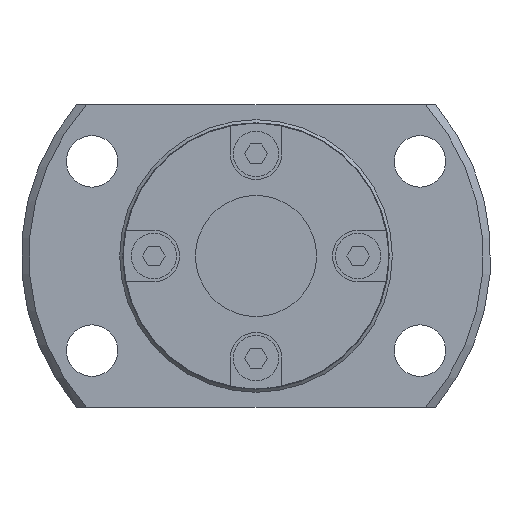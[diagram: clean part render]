
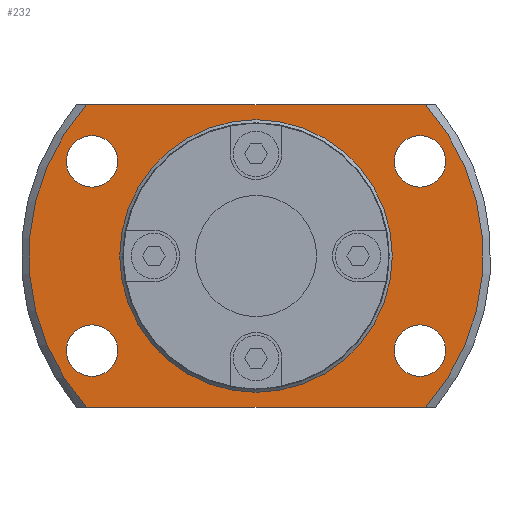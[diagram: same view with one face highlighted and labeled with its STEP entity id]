
A CAD part, left-side view. The second image highlights one B-rep face of the part: STEP entity #232.
In plain terms, the highlighted planar face has unit normal (-1, 0, 0).
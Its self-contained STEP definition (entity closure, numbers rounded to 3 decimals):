
#232 = ADVANCED_FACE( '', ( #493, #494, #495, #496, #497, #498 ), #499, .F. );
#493 = FACE_OUTER_BOUND( '', #793, .T. );
#494 = FACE_BOUND( '', #794, .T. );
#495 = FACE_BOUND( '', #795, .T. );
#496 = FACE_BOUND( '', #796, .T. );
#497 = FACE_BOUND( '', #797, .T. );
#498 = FACE_BOUND( '', #798, .T. );
#499 = PLANE( '', #799 );
#793 = EDGE_LOOP( '', ( #1300, #1301, #1302, #1303 ) );
#794 = EDGE_LOOP( '', ( #1304 ) );
#795 = EDGE_LOOP( '', ( #1305 ) );
#796 = EDGE_LOOP( '', ( #1306 ) );
#797 = EDGE_LOOP( '', ( #1307 ) );
#798 = EDGE_LOOP( '', ( #1308 ) );
#799 = AXIS2_PLACEMENT_3D( '', #1309, #1310, #1311 );
#1300 = ORIENTED_EDGE( '', *, *, #1796, .F. );
#1301 = ORIENTED_EDGE( '', *, *, #1797, .T. );
#1302 = ORIENTED_EDGE( '', *, *, #1798, .F. );
#1303 = ORIENTED_EDGE( '', *, *, #1794, .T. );
#1304 = ORIENTED_EDGE( '', *, *, #1723, .T. );
#1305 = ORIENTED_EDGE( '', *, *, #1799, .T. );
#1306 = ORIENTED_EDGE( '', *, *, #1800, .T. );
#1307 = ORIENTED_EDGE( '', *, *, #1661, .T. );
#1308 = ORIENTED_EDGE( '', *, *, #1760, .T. );
#1309 = CARTESIAN_POINT( '', ( 13., 8.85, 0. ) );
#1310 = DIRECTION( '', ( 1., 0., 0. ) );
#1311 = DIRECTION( '', ( 0., 0., -1. ) );
#1661 = EDGE_CURVE( '', #1953, #1953, #1954, .T. );
#1723 = EDGE_CURVE( '', #2055, #2055, #2056, .T. );
#1760 = EDGE_CURVE( '', #2104, #2104, #2105, .T. );
#1794 = EDGE_CURVE( '', #2150, #2157, #2159, .T. );
#1796 = EDGE_CURVE( '', #2161, #2157, #2162, .T. );
#1797 = EDGE_CURVE( '', #2161, #2163, #2164, .T. );
#1798 = EDGE_CURVE( '', #2150, #2163, #2165, .T. );
#1799 = EDGE_CURVE( '', #2166, #2166, #2167, .T. );
#1800 = EDGE_CURVE( '', #2168, #2168, #2169, .T. );
#1953 = VERTEX_POINT( '', #2366 );
#1954 = CIRCLE( '', #2367, 1.7 );
#2055 = VERTEX_POINT( '', #2504 );
#2056 = CIRCLE( '', #2505, 1.7 );
#2104 = VERTEX_POINT( '', #2572 );
#2105 = CIRCLE( '', #2573, 8.85 );
#2150 = VERTEX_POINT( '', #2627 );
#2157 = VERTEX_POINT( '', #2644 );
#2159 = LINE( '', #2649, #2650 );
#2161 = VERTEX_POINT( '', #2652 );
#2162 = CIRCLE( '', #2653, 15. );
#2163 = VERTEX_POINT( '', #2654 );
#2164 = LINE( '', #2655, #2656 );
#2165 = CIRCLE( '', #2657, 15. );
#2166 = VERTEX_POINT( '', #2658 );
#2167 = CIRCLE( '', #2659, 1.7 );
#2168 = VERTEX_POINT( '', #2660 );
#2169 = CIRCLE( '', #2661, 1.7 );
#2366 = CARTESIAN_POINT( '', ( 13., 10.825, 4.55 ) );
#2367 = AXIS2_PLACEMENT_3D( '', #2834, #2835, #2836 );
#2504 = CARTESIAN_POINT( '', ( 13., -10.825, 4.55 ) );
#2505 = AXIS2_PLACEMENT_3D( '', #2906, #2907, #2908 );
#2572 = CARTESIAN_POINT( '', ( 13., 0., -8.85 ) );
#2573 = AXIS2_PLACEMENT_3D( '', #2946, #2947, #2948 );
#2627 = CARTESIAN_POINT( '', ( 13., -11.18, 10. ) );
#2644 = CARTESIAN_POINT( '', ( 13., 11.18, 10. ) );
#2649 = CARTESIAN_POINT( '', ( 13., 8.85, 10. ) );
#2650 = VECTOR( '', #2989, 1000. );
#2652 = CARTESIAN_POINT( '', ( 13., 11.18, -10. ) );
#2653 = AXIS2_PLACEMENT_3D( '', #2990, #2991, #2992 );
#2654 = CARTESIAN_POINT( '', ( 13., -11.18, -10. ) );
#2655 = CARTESIAN_POINT( '', ( 13., 8.85, -10. ) );
#2656 = VECTOR( '', #2993, 1000. );
#2657 = AXIS2_PLACEMENT_3D( '', #2994, #2995, #2996 );
#2658 = CARTESIAN_POINT( '', ( 13., -10.825, -7.95 ) );
#2659 = AXIS2_PLACEMENT_3D( '', #2997, #2998, #2999 );
#2660 = CARTESIAN_POINT( '', ( 13., 10.825, -7.95 ) );
#2661 = AXIS2_PLACEMENT_3D( '', #3000, #3001, #3002 );
#2834 = CARTESIAN_POINT( '', ( 13., 10.825, 6.25 ) );
#2835 = DIRECTION( '', ( 1., 0., 0. ) );
#2836 = DIRECTION( '', ( 0., 0., -1. ) );
#2906 = CARTESIAN_POINT( '', ( 13., -10.825, 6.25 ) );
#2907 = DIRECTION( '', ( 1., 0., 0. ) );
#2908 = DIRECTION( '', ( 0., 0., -1. ) );
#2946 = CARTESIAN_POINT( '', ( 13., 0., 0. ) );
#2947 = DIRECTION( '', ( 1., 0., 0. ) );
#2948 = DIRECTION( '', ( 0., 0., -1. ) );
#2989 = DIRECTION( '', ( 0., 1., 0. ) );
#2990 = CARTESIAN_POINT( '', ( 13., 0., 0. ) );
#2991 = DIRECTION( '', ( 1., 0., 0. ) );
#2992 = DIRECTION( '', ( 0., 0., -1. ) );
#2993 = DIRECTION( '', ( 0., -1., 0. ) );
#2994 = CARTESIAN_POINT( '', ( 13., 0., 0. ) );
#2995 = DIRECTION( '', ( 1., 0., 0. ) );
#2996 = DIRECTION( '', ( 0., 0., -1. ) );
#2997 = CARTESIAN_POINT( '', ( 13., -10.825, -6.25 ) );
#2998 = DIRECTION( '', ( 1., 0., 0. ) );
#2999 = DIRECTION( '', ( 0., 0., -1. ) );
#3000 = CARTESIAN_POINT( '', ( 13., 10.825, -6.25 ) );
#3001 = DIRECTION( '', ( 1., 0., 0. ) );
#3002 = DIRECTION( '', ( 0., 0., -1. ) );
